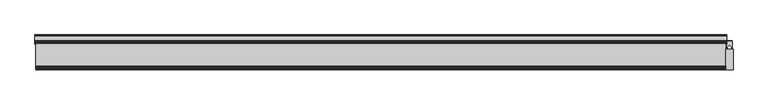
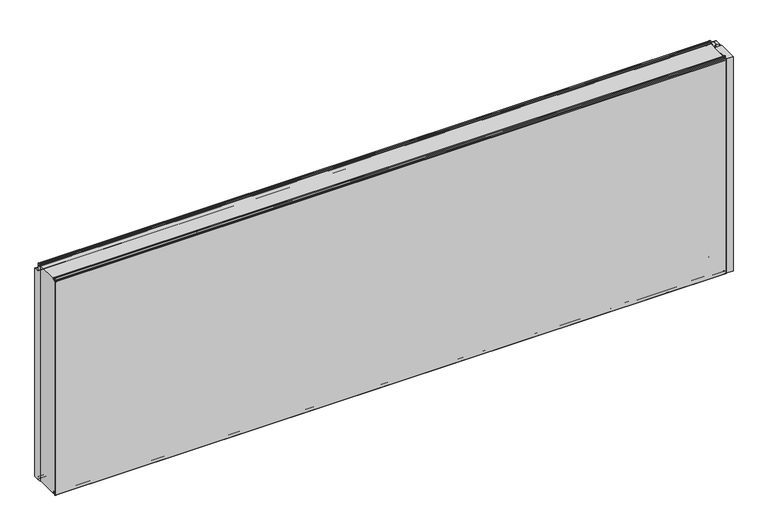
"""IFC4 building model written with IfcOpenShell, lengths in millimetres: plate geometry, Fronttop : Fronttop 150/1000."""

from ifc_helpers import new_model, si_unit, point, frame, frame_2d, origin, origin_with_axes, place, context, project, spatial, polyline, circle_curve, trimmed, segment, composite_curve, outline, extrude, source, transform, mapped, element, save
from ifc_brep_helpers import plane_surface, cylinder_surface, revolved_surface, advanced_brep


def plate_2dd25033(model_context):
    return source(origin(), model_context, "Body", "SolidModel", [
        advanced_brep(
        [(-1481.5, 124.0, 1008.0), (-1481.5, 121.0, 1008.0), (-1481.5, 121.0, 1004.0), (-1481.5, 117.0, 1000.0), (-1481.5, 115.0, 1000.0), (-1481.5, 115.0, 1001.0), (-1481.5, 117.0, 1001.0), (-1481.5, 120.0, 1004.0), (-1481.5, 120.0, 1008.0), (-1481.5, 125.0, 1008.0), (-1481.5, 125.0, 1000.0), (-1481.5, 124.0, 1000.0), (1481.5, 125.0, 1008.0), (1481.5, 120.0, 1008.0), (1481.5, 120.0, 1004.0), (1481.5, 117.0, 1001.0), (1481.5, 115.0, 1001.0), (1481.5, 115.0, 1000.0), (1481.5, 117.0, 1000.0), (1481.5, 121.0, 1004.0), (1481.5, 121.0, 1008.0), (1481.5, 124.0, 1008.0), (1481.5, 124.0, 1000.0), (1481.5, 125.0, 1000.0), (-1481.5, 117.0, 2.0), (1481.5, 117.0, 2.0), (1481.5, 115.0, 2.0), (-1481.5, 115.0, 2.0), (-1481.5, 119.0, 4.0), (1481.5, 119.0, 4.0), (-1481.5, 119.0, 8.0), (1481.5, 119.0, 8.0), (-1481.5, 126.0, 8.0), (1481.5, 126.0, 8.0), (-1481.5, 126.0, 0.0), (1481.5, 126.0, 0.0), (-1481.5, 129.0, -3.0), (1481.5, 129.0, -3.0), (-1481.5, 125.0, -3.0), (-1482.5, 125.0, -3.0), (-1482.5, 147.0, -3.0), (-1481.5, 147.0, -3.0), (1481.5, 147.0, -3.0), (1482.5, 147.0, -3.0), (1482.5, 125.0, -3.0), (1481.5, 125.0, -3.0), (-1481.5, 150.0, 0.0), (1481.5, 150.0, 0.0), (-1482.5, 150.0, 0.0), (-1482.5, 150.0, 969.0), (-1481.5, 150.0, 969.0), (1481.5, 150.0, 969.0), (1482.5, 150.0, 969.0), (1482.5, 150.0, 0.0), (-1481.5, 147.0, 972.0), (1481.5, 147.0, 972.0), (-1482.5, 147.0, 972.0), (-1482.5, 128.0, 972.0), (-1481.5, 128.0, 972.0), (1481.5, 128.0, 972.0), (1482.5, 128.0, 972.0), (1482.5, 147.0, 972.0), (-1481.5, 125.0, 975.0), (1481.5, 125.0, 975.0), (-1482.5, 125.0, 975.0), (-1482.5, 125.0, 1000.0), (1482.5, 125.0, 1000.0), (1482.5, 125.0, 975.0), (-1481.5, 124.0, 975.0), (1481.5, 124.0, 975.0), (-1481.5, 128.0, 971.0), (1481.5, 128.0, 971.0), (-1481.5, 147.0, 971.0), (1481.5, 147.0, 971.0), (-1481.5, 149.0, 969.0), (1481.5, 149.0, 969.0), (-1481.5, 149.0, 0.0), (1481.5, 149.0, 0.0), (-1481.5, 147.0, -2.0), (1481.5, 147.0, -2.0), (-1481.5, 129.0, -2.0), (1481.5, 129.0, -2.0), (-1481.5, 127.0, 0.0), (1481.5, 127.0, 0.0), (-1481.5, 127.0, 8.0), (1481.5, 127.0, 8.0), (-1481.5, 118.0, 8.0), (1481.5, 118.0, 8.0), (-1481.5, 118.0, 4.0), (1481.5, 118.0, 4.0), (-1481.5, 117.0, 3.0), (1481.5, 117.0, 3.0), (-1481.5, 115.0, 3.0), (1481.5, 115.0, 3.0), (1482.5, 110.0, 1000.0), (1482.5, 110.0, 0.0), (1482.5, 125.0, 0.0), (1481.5, 125.0, 0.0), (1481.5, 110.0, 0.0), (1481.5, 110.0, 1000.0), (-1482.5, 125.0, 0.0), (-1482.5, 110.0, 0.0), (-1482.5, 110.0, 1000.0), (-1481.5, 110.0, 1000.0), (-1481.5, 110.0, 0.0), (-1481.5, 125.0, 0.0)],
        [
            (0, 1, circle_curve(frame((-1481.5, 122.5, 1008.0), z_axis=(1.0, 0.0, 0.0), x_axis=(0.0, -1.0, 0.0)), 1.5)),
            (1, 2),
            (2, 3, circle_curve(frame((-1481.5, 117.0, 1004.0), z_axis=(-1.0, 0.0, 0.0), x_axis=(0.0, -1.0, 0.0)), 4.0)),
            (3, 4),
            (4, 5),
            (5, 6),
            (6, 7, circle_curve(frame((-1481.5, 117.0, 1004.0), z_axis=(1.0, 0.0, 0.0), x_axis=(0.0, -1.0, 0.0)), 3.0)),
            (7, 8),
            (8, 9, circle_curve(frame((-1481.5, 122.5, 1008.0), z_axis=(-1.0, 0.0, 0.0), x_axis=(0.0, -1.0, 0.0)), 2.5)),
            (9, 10),
            (10, 11),
            (11, 0),
            (12, 13, circle_curve(frame((1481.5, 122.5, 1008.0), z_axis=(1.0, 0.0, 0.0), x_axis=(0.0, -1.0, 0.0)), 2.5)),
            (13, 14),
            (14, 15, circle_curve(frame((1481.5, 117.0, 1004.0), z_axis=(-1.0, 0.0, 0.0), x_axis=(0.0, -1.0, 0.0)), 3.0)),
            (15, 16),
            (16, 17),
            (17, 18),
            (18, 19, circle_curve(frame((1481.5, 117.0, 1004.0), z_axis=(1.0, 0.0, 0.0), x_axis=(0.0, -1.0, 0.0)), 4.0)),
            (19, 20),
            (20, 21, circle_curve(frame((1481.5, 122.5, 1008.0), z_axis=(-1.0, 0.0, 0.0), x_axis=(0.0, -1.0, 0.0)), 1.5)),
            (21, 22),
            (22, 23),
            (23, 12),
            (24, 25),
            (25, 26),
            (26, 27),
            (27, 24),
            (24, 28, circle_curve(frame((-1481.5, 117.0, 4.0), z_axis=(1.0, 0.0, 0.0), x_axis=(0.0, -1.0, 0.0)), 2.0)),
            (28, 29),
            (29, 25, circle_curve(frame((1481.5, 117.0, 4.0), z_axis=(-1.0, 0.0, 0.0), x_axis=(0.0, -1.0, 0.0)), 2.0)),
            (28, 30),
            (30, 31),
            (31, 29),
            (30, 32, circle_curve(frame((-1481.5, 122.5, 8.0), z_axis=(-1.0, 0.0, 0.0), x_axis=(0.0, -1.0, 0.0)), 3.5)),
            (32, 33),
            (33, 31, circle_curve(frame((1481.5, 122.5, 8.0), z_axis=(1.0, 0.0, 0.0), x_axis=(0.0, -1.0, 0.0)), 3.5)),
            (32, 34),
            (34, 35),
            (35, 33),
            (34, 36, circle_curve(frame((-1481.5, 129.0, 0.0), z_axis=(1.0, 0.0, 0.0), x_axis=(0.0, -1.0, 0.0)), 3.0)),
            (36, 37),
            (37, 35, circle_curve(frame((1481.5, 129.0, 0.0), z_axis=(-1.0, 0.0, 0.0), x_axis=(0.0, -1.0, 0.0)), 3.0)),
            (36, 38),
            (38, 39),
            (39, 40),
            (40, 41),
            (41, 42),
            (42, 43),
            (43, 44),
            (44, 45),
            (45, 37),
            (41, 46, circle_curve(frame((-1481.5, 147.0, 0.0), z_axis=(1.0, 0.0, 0.0), x_axis=(0.0, -1.0, 0.0)), 3.0)),
            (46, 47),
            (47, 42, circle_curve(frame((1481.5, 147.0, 0.0), z_axis=(-1.0, 0.0, 0.0), x_axis=(0.0, -1.0, 0.0)), 3.0)),
            (46, 48),
            (48, 49),
            (49, 50),
            (50, 51),
            (51, 52),
            (52, 53),
            (53, 47),
            (50, 54, circle_curve(frame((-1481.5, 147.0, 969.0), z_axis=(1.0, 0.0, 0.0), x_axis=(0.0, -1.0, 0.0)), 3.0)),
            (54, 55),
            (55, 51, circle_curve(frame((1481.5, 147.0, 969.0), z_axis=(-1.0, 0.0, 0.0), x_axis=(0.0, -1.0, 0.0)), 3.0)),
            (54, 56),
            (56, 57),
            (57, 58),
            (58, 59),
            (59, 60),
            (60, 61),
            (61, 55),
            (58, 62, circle_curve(frame((-1481.5, 128.0, 975.0), z_axis=(-1.0, 0.0, 0.0), x_axis=(0.0, -1.0, 0.0)), 3.0)),
            (62, 63),
            (63, 59, circle_curve(frame((1481.5, 128.0, 975.0), z_axis=(1.0, 0.0, 0.0), x_axis=(0.0, -1.0, 0.0)), 3.0)),
            (62, 64),
            (64, 65),
            (65, 10),
            (9, 12),
            (23, 66),
            (66, 67),
            (67, 63),
            (8, 13),
            (7, 14),
            (6, 15),
            (5, 16),
            (4, 17),
            (4, 3),
            (3, 18),
            (18, 17),
            (2, 19),
            (1, 20),
            (0, 21),
            (11, 68),
            (68, 69),
            (69, 22),
            (68, 70, circle_curve(frame((-1481.5, 128.0, 975.0), z_axis=(1.0, 0.0, 0.0), x_axis=(0.0, -1.0, 0.0)), 4.0)),
            (70, 71),
            (71, 69, circle_curve(frame((1481.5, 128.0, 975.0), z_axis=(-1.0, 0.0, 0.0), x_axis=(0.0, -1.0, 0.0)), 4.0)),
            (70, 72),
            (72, 73),
            (73, 71),
            (72, 74, circle_curve(frame((-1481.5, 147.0, 969.0), z_axis=(-1.0, 0.0, 0.0), x_axis=(0.0, -1.0, 0.0)), 2.0)),
            (74, 75),
            (75, 73, circle_curve(frame((1481.5, 147.0, 969.0), z_axis=(1.0, 0.0, 0.0), x_axis=(0.0, -1.0, 0.0)), 2.0)),
            (74, 76),
            (76, 77),
            (77, 75),
            (76, 78, circle_curve(frame((-1481.5, 147.0, 0.0), z_axis=(-1.0, 0.0, 0.0), x_axis=(0.0, -1.0, 0.0)), 2.0)),
            (78, 79),
            (79, 77, circle_curve(frame((1481.5, 147.0, 0.0), z_axis=(1.0, 0.0, 0.0), x_axis=(0.0, -1.0, 0.0)), 2.0)),
            (78, 80),
            (80, 81),
            (81, 79),
            (80, 82, circle_curve(frame((-1481.5, 129.0, 0.0), z_axis=(-1.0, 0.0, 0.0), x_axis=(0.0, -1.0, 0.0)), 2.0)),
            (82, 83),
            (83, 81, circle_curve(frame((1481.5, 129.0, 0.0), z_axis=(1.0, 0.0, 0.0), x_axis=(0.0, -1.0, 0.0)), 2.0)),
            (82, 84),
            (84, 85),
            (85, 83),
            (84, 86, circle_curve(frame((-1481.5, 122.5, 8.0), z_axis=(1.0, 0.0, 0.0), x_axis=(0.0, -1.0, 0.0)), 4.5)),
            (86, 87),
            (87, 85, circle_curve(frame((1481.5, 122.5, 8.0), z_axis=(-1.0, 0.0, 0.0), x_axis=(0.0, -1.0, 0.0)), 4.5)),
            (86, 88),
            (88, 89),
            (89, 87),
            (88, 90, circle_curve(frame((-1481.5, 117.0, 4.0), z_axis=(-1.0, 0.0, 0.0), x_axis=(0.0, -1.0, 0.0)), 1.0)),
            (90, 91),
            (91, 89, circle_curve(frame((1481.5, 117.0, 4.0), z_axis=(1.0, 0.0, 0.0), x_axis=(0.0, -1.0, 0.0)), 1.0)),
            (90, 92),
            (92, 93),
            (93, 91),
            (26, 93),
            (92, 27),
            (66, 94),
            (94, 95),
            (95, 96),
            (96, 44),
            (43, 53, circle_curve(frame((1482.5, 147.0, 0.0), z_axis=(1.0, 0.0, 0.0), x_axis=(0.0, 1.0, 0.0)), 3.0)),
            (52, 61, circle_curve(frame((1482.5, 147.0, 969.0), z_axis=(1.0, 0.0, 0.0), x_axis=(0.0, 1.0, 0.0)), 3.0)),
            (60, 67, circle_curve(frame((1482.5, 128.0, 975.0), z_axis=(-1.0, 0.0, 0.0), x_axis=(0.0, 1.0, 0.0)), 3.0)),
            (45, 97),
            (97, 98),
            (98, 99),
            (99, 17),
            (18, 22),
            (99, 94),
            (98, 95),
            (97, 96),
            (64, 57, circle_curve(frame((-1482.5, 128.0, 975.0), z_axis=(1.0, 0.0, 0.0), x_axis=(0.0, 1.0, 0.0)), 3.0)),
            (56, 49, circle_curve(frame((-1482.5, 147.0, 969.0), z_axis=(-1.0, 0.0, 0.0), x_axis=(0.0, 1.0, 0.0)), 3.0)),
            (48, 40, circle_curve(frame((-1482.5, 147.0, 0.0), z_axis=(-1.0, 0.0, 0.0), x_axis=(0.0, 1.0, 0.0)), 3.0)),
            (39, 100),
            (100, 101),
            (101, 102),
            (102, 65),
            (103, 104),
            (104, 105),
            (105, 38),
            (11, 3),
            (4, 103),
            (102, 103),
            (101, 104),
            (100, 105),
        ],
        [
            plane_surface(frame((-1481.5, 0.0, 0.0), z_axis=(-1.0, 0.0, 0.0), x_axis=(0.0, 0.0, 1.0))),
            plane_surface(frame((1481.5, 0.0, 0.0), z_axis=(1.0, 0.0, 0.0), x_axis=(0.0, 0.0, 1.0))),
            plane_surface(frame((-1481.5, 117.0, 2.0), z_axis=(0.0, 0.0, -1.0), x_axis=(1.0, 0.0, 0.0))),
            cylinder_surface(frame((-1481.5, 117.0, 4.0), z_axis=(-1.0, 0.0, 0.0), x_axis=(0.0, -1.0, 0.0)), 2.0),
            plane_surface(frame((-1481.5, 119.0, 8.0), z_axis=(0.0, 1.0, 0.0), x_axis=(1.0, 0.0, 0.0))),
            revolved_surface(polyline([(1481.5, 119.0, 8.0), (-1481.5, 119.0, 8.0)]), (-1481.5, 122.5, 8.0), (1.0, 0.0, 0.0)),
            plane_surface(frame((-1481.5, 126.0, 0.0), z_axis=(0.0, -1.0, 0.0), x_axis=(1.0, 0.0, 0.0))),
            cylinder_surface(frame((-1481.5, 129.0, 0.0), z_axis=(-1.0, 0.0, 0.0), x_axis=(0.0, -1.0, 0.0)), 3.0),
            plane_surface(frame((-1481.5, 147.0, -3.0), z_axis=(0.0, 0.0, -1.0), x_axis=(1.0, 0.0, 0.0))),
            cylinder_surface(frame((-1481.5, 147.0, 0.0), z_axis=(-1.0, 0.0, 0.0), x_axis=(0.0, -1.0, 0.0)), 3.0),
            plane_surface(frame((-1481.5, 150.0, 969.0), z_axis=(0.0, 1.0, 0.0), x_axis=(1.0, 0.0, 0.0))),
            cylinder_surface(frame((-1481.5, 147.0, 969.0), z_axis=(-1.0, 0.0, 0.0), x_axis=(0.0, -1.0, 0.0)), 3.0),
            plane_surface(frame((-1481.5, 128.0, 972.0), z_axis=(0.0, 0.0, 1.0), x_axis=(1.0, 0.0, 0.0))),
            revolved_surface(polyline([(1481.5, 125.0, 975.0), (-1481.5, 125.0, 975.0)]), (-1481.5, 128.0, 975.0), (1.0, 0.0, 0.0)),
            plane_surface(frame((-1481.5, 125.0, 1008.0), z_axis=(0.0, 1.0, 0.0), x_axis=(1.0, 0.0, 0.0))),
            cylinder_surface(frame((-1481.5, 122.5, 1008.0), z_axis=(-1.0, 0.0, 0.0), x_axis=(0.0, -1.0, 0.0)), 2.5),
            plane_surface(frame((-1481.5, 120.0, 1004.0), z_axis=(0.0, -1.0, 0.0), x_axis=(1.0, 0.0, 0.0))),
            revolved_surface(polyline([(1481.5, 114.0, 1004.0), (-1481.5, 114.0, 1004.0)]), (-1481.5, 117.0, 1004.0), (1.0, 0.0, 0.0)),
            plane_surface(frame((-1481.5, 115.0, 1001.0), z_axis=(0.0, 0.0, 1.0), x_axis=(1.0, 0.0, 0.0))),
            plane_surface(frame((-1481.5, 115.0, 1000.0), z_axis=(0.0, -1.0, 0.0), x_axis=(1.0, 0.0, 0.0))),
            plane_surface(frame((-1481.5, 117.0, 1000.0), z_axis=(0.0, 0.0, -1.0), x_axis=(1.0, 0.0, 0.0))),
            cylinder_surface(frame((-1481.5, 117.0, 1004.0), z_axis=(-1.0, 0.0, 0.0), x_axis=(0.0, -1.0, 0.0)), 4.0),
            plane_surface(frame((-1481.5, 121.0, 1008.0), z_axis=(0.0, 1.0, 0.0), x_axis=(1.0, 0.0, 0.0))),
            revolved_surface(polyline([(1481.5, 121.0, 1008.0), (-1481.5, 121.0, 1008.0)]), (-1481.5, 122.5, 1008.0), (1.0, 0.0, 0.0)),
            plane_surface(frame((-1481.5, 124.0, 975.0), z_axis=(0.0, -1.0, 0.0), x_axis=(1.0, 0.0, 0.0))),
            cylinder_surface(frame((-1481.5, 128.0, 975.0), z_axis=(-1.0, 0.0, 0.0), x_axis=(0.0, -1.0, 0.0)), 4.0),
            plane_surface(frame((-1481.5, 147.0, 971.0), z_axis=(0.0, 0.0, -1.0), x_axis=(1.0, 0.0, 0.0))),
            revolved_surface(polyline([(1481.5, 145.0, 969.0), (-1481.5, 145.0, 969.0)]), (-1481.5, 147.0, 969.0), (1.0, 0.0, 0.0)),
            plane_surface(frame((-1481.5, 149.0, 0.0), z_axis=(0.0, -1.0, 0.0), x_axis=(1.0, 0.0, 0.0))),
            revolved_surface(polyline([(1481.5, 145.0, 0.0), (-1481.5, 145.0, 0.0)]), (-1481.5, 147.0, 0.0), (1.0, 0.0, 0.0)),
            plane_surface(frame((-1481.5, 129.0, -2.0), z_axis=(0.0, 0.0, 1.0), x_axis=(1.0, 0.0, 0.0))),
            revolved_surface(polyline([(1481.5, 127.0, 0.0), (-1481.5, 127.0, 0.0)]), (-1481.5, 129.0, 0.0), (1.0, 0.0, 0.0)),
            plane_surface(frame((-1481.5, 127.0, 8.0), z_axis=(0.0, 1.0, 0.0), x_axis=(1.0, 0.0, 0.0))),
            cylinder_surface(frame((-1481.5, 122.5, 8.0), z_axis=(-1.0, 0.0, 0.0), x_axis=(0.0, -1.0, 0.0)), 4.5),
            plane_surface(frame((-1481.5, 118.0, 4.0), z_axis=(0.0, -1.0, 0.0), x_axis=(1.0, 0.0, 0.0))),
            revolved_surface(polyline([(1481.5, 116.0, 4.0), (-1481.5, 116.0, 4.0)]), (-1481.5, 117.0, 4.0), (1.0, 0.0, 0.0)),
            plane_surface(frame((-1481.5, 115.0, 3.0), z_axis=(0.0, 0.0, 1.0), x_axis=(1.0, 0.0, 0.0))),
            plane_surface(frame((-1481.5, 115.0, 2.0), z_axis=(0.0, -1.0, 0.0), x_axis=(1.0, 0.0, 0.0))),
            plane_surface(frame((1482.5, 125.0, 1000.0), z_axis=(1.0, 0.0, 0.0), x_axis=(0.0, -1.0, 0.0))),
            plane_surface(frame((1481.5, 125.0, 1000.0), z_axis=(-1.0, 0.0, 0.0), x_axis=(0.0, 1.0, 0.0))),
            plane_surface(frame((1482.5, 125.0, 1000.0), z_axis=(0.0, 0.0, 1.0), x_axis=(-1.0, 0.0, 0.0))),
            plane_surface(frame((1482.5, 110.0, 1000.0), z_axis=(0.0, -1.0, 0.0), x_axis=(-1.0, 0.0, 0.0))),
            plane_surface(frame((1482.5, 110.0, 0.0), z_axis=(0.0, 0.0, -1.0), x_axis=(-1.0, 0.0, 0.0))),
            cylinder_surface(frame((1481.5, 147.0, 0.0), z_axis=(1.0, 0.0, 0.0), x_axis=(0.0, 1.0, 0.0)), 3.0),
            cylinder_surface(frame((1481.5, 147.0, 969.0), z_axis=(1.0, 0.0, 0.0), x_axis=(0.0, 1.0, 0.0)), 3.0),
            revolved_surface(polyline([(1481.5, 131.0, 975.0), (1482.5, 131.0, 975.0)]), (1481.5, 128.0, 975.0), (-1.0, 0.0, 0.0)),
            plane_surface(frame((-1482.5, 125.0, 1000.0), z_axis=(-1.0, 0.0, 0.0), x_axis=(0.0, 1.0, 0.0))),
            plane_surface(frame((-1481.5, 125.0, 1000.0), z_axis=(1.0, 0.0, 0.0), x_axis=(0.0, -1.0, 0.0))),
            plane_surface(frame((-1481.5, 125.0, 1000.0), z_axis=(0.0, 0.0, 1.0), x_axis=(-1.0, 0.0, 0.0))),
            plane_surface(frame((-1481.5, 110.0, 1000.0), z_axis=(0.0, -1.0, 0.0), x_axis=(-1.0, 0.0, 0.0))),
            plane_surface(frame((-1481.5, 110.0, 0.0), z_axis=(0.0, 0.0, -1.0), x_axis=(-1.0, 0.0, 0.0))),
            cylinder_surface(frame((-1482.5, 147.0, 0.0), z_axis=(1.0, 0.0, 0.0), x_axis=(0.0, 1.0, 0.0)), 3.0),
            cylinder_surface(frame((-1482.5, 147.0, 969.0), z_axis=(1.0, 0.0, 0.0), x_axis=(0.0, 1.0, 0.0)), 3.0),
            revolved_surface(polyline([(-1482.5, 131.0, 975.0), (-1481.5, 131.0, 975.0)]), (-1482.5, 128.0, 975.0), (-1.0, 0.0, 0.0)),
            plane_surface(frame((1482.5, 125.0, 0.0), z_axis=(0.0, -1.0, 0.0), x_axis=(-1.0, 0.0, 0.0))),
            plane_surface(frame((-1481.5, 125.0, 0.0), z_axis=(0.0, -1.0, 0.0), x_axis=(-1.0, 0.0, 0.0))),
        ],
        [
            (0, [[1, 2, 3, 4, 5, 6, 7, 8, 9, 10, 11, 12]]),
            (1, [[13, 14, 15, 16, 17, 18, 19, 20, 21, 22, 23, 24]]),
            (2, [[25, 26, 27, 28]]),
            (3, [[-25, 29, 30, 31]]),
            (4, [[-30, 32, 33, 34]]),
            (5, [[-33, 35, 36, 37]]),
            (6, [[-36, 38, 39, 40]]),
            (7, [[-39, 41, 42, 43]]),
            (8, [[-42, 44, 45, 46, 47, 48, 49, 50, 51, 52]]),
            (9, [[-48, 53, 54, 55]]),
            (10, [[-54, 56, 57, 58, 59, 60, 61, 62]]),
            (11, [[-59, 63, 64, 65]]),
            (12, [[-64, 66, 67, 68, 69, 70, 71, 72]]),
            (13, [[-69, 73, 74, 75]]),
            (14, [[-74, 76, 77, 78, -10, 79, -24, 80, 81, 82]]),
            (15, [[-9, 83, -13, -79]]),
            (16, [[-8, 84, -14, -83]]),
            (17, [[-7, 85, -15, -84]]),
            (18, [[-6, 86, -16, -85]]),
            (19, [[-5, 87, -17, -86]]),
            (20, [[-87, 88, 89, 90]]),
            (21, [[-3, 91, -19, -89]]),
            (22, [[-2, 92, -20, -91]]),
            (23, [[-1, 93, -21, -92]]),
            (24, [[-93, -12, 94, 95, 96, -22]]),
            (25, [[-95, 97, 98, 99]]),
            (26, [[-98, 100, 101, 102]]),
            (27, [[-101, 103, 104, 105]]),
            (28, [[-104, 106, 107, 108]]),
            (29, [[-107, 109, 110, 111]]),
            (30, [[-110, 112, 113, 114]]),
            (31, [[-113, 115, 116, 117]]),
            (32, [[-116, 118, 119, 120]]),
            (33, [[-119, 121, 122, 123]]),
            (34, [[-122, 124, 125, 126]]),
            (35, [[-125, 127, 128, 129]]),
            (36, [[-128, 130, 131, 132]]),
            (37, [[-27, 133, -131, 134]]),
            (38, [[135, 136, 137, 138, -50, 139, -61, 140, -71, 141, -81]]),
            (39, [[142, 143, 144, 145, -90, 146, -96, -99, -102, -105, -108, -111, -114, -117, -120, -123, -126, -129, -132, -133, -26, -31, -34, -37, -40, -43, -52]]),
            (40, [[-135, -80, -23, -146, -18, -145, 147]]),
            (41, [[-136, -147, -144, 148]]),
            (42, [[-137, -148, -143, 149]]),
            (43, [[-139, -49, -55, -62]]),
            (44, [[-140, -60, -65, -72]]),
            (45, [[-141, -70, -75, -82]]),
            (46, [[-77, 150, -67, 151, -57, 152, -46, 153, 154, 155, 156]]),
            (47, [[157, 158, 159, -44, -41, -38, -35, -32, -29, -28, -134, -130, -127, -124, -121, -118, -115, -112, -109, -106, -103, -100, -97, -94, 160, -88, 161]]),
            (48, [[-156, 162, -161, -4, -160, -11, -78]]),
            (49, [[-155, 163, -157, -162]]),
            (50, [[-154, 164, -158, -163]]),
            (51, [[-152, -56, -53, -47]]),
            (52, [[-151, -66, -63, -58]]),
            (53, [[-150, -76, -73, -68]]),
            (54, [[-138, -149, -142, -51]]),
            (55, [[-153, -45, -159, -164]]),
        ],
    ),
        extrude(outline(composite_curve([segment(polyline([(1482.4998455, 123.5), (1494.25, 123.5), (1494.25, 107.5), (1495.75, 107.5), (1495.75, 123.5), (1507.5001545, 123.5), (1507.5001545, 90.0), (1504.75, 90.0), (1504.75, 92.5)]), True, "CONTINUOUS"), segment(trimmed(circle_curve(frame_2d((1486.9661979, 89.3183984)), 18.0661619), [point((1504.75, 92.5))], [point((1495.0, 105.5))], True, "CARTESIAN"), True, "CONTINUOUS"), segment(trimmed(circle_curve(frame_2d((1503.0338021, 89.3183984)), 18.0661619), [point((1495.0, 105.5))], [point((1485.25, 92.5))], True, "CARTESIAN"), True, "CONTINUOUS"), segment(polyline([(1485.25, 92.5), (1485.25, 90.0), (1482.4998455, 90.0), (1482.4998455, 123.5)]), True, "CONTINUOUS")], self_intersect=False)), origin_with_axes(), (0.0, 0.0, 1.0), 1000.0),
        extrude(outline(polyline([(1510.5, 0.0), (1479.5, 0.0), (1479.5, 88.0), (1510.5, 88.0), (1510.5, 0.0)])), origin_with_axes(), (0.0, 0.0, 1.0), 1000.0),
        extrude(outline(polyline([(1483.4948846, 125.0), (1506.5051154, 125.0), (1506.5051154, 123.5), (1495.6502496, 123.5), (1495.6502496, 109.0759655), (1494.35, 109.0759655), (1494.35, 123.5), (1483.4948846, 123.5), (1483.4948846, 125.0)])), origin_with_axes(), (0.0, 0.0, 1.0), 1000.0),
        advanced_brep(
        [(-1479.5, 13.0, 1001.0), (-1479.5, 15.0, 1001.0), (-1479.5, 15.0, 1000.0), (-1479.5, 13.0, 1000.0), (-1479.5, 9.0, 1004.0), (-1479.5, 9.0, 1008.0), (-1479.5, 6.0, 1008.0), (-1479.5, 6.0, 999.5), (-1479.5, 2.1134897, 996.0214069), (-1479.5, 1.0, 995.0), (-1479.5, 1.0, -0.5), (-1479.5, 3.0, -0.5), (-1479.5, 3.0, 8.0), (-1479.5, 12.0, 8.0), (-1479.5, 12.0, 4.0), (-1479.5, 13.0, 3.0), (-1479.5, 15.0, 3.0), (-1479.5, 15.0, 2.0), (-1479.5, 13.0, 2.0), (-1479.5, 11.0, 4.0), (-1479.5, 11.0, 8.0), (-1479.5, 4.0, 8.0), (-1479.5, 4.0, -0.5), (-1479.5, 0.0, -0.5), (-1479.5, 0.0, 995.0), (-1479.5, 2.220863, 996.9877675), (-1479.5, 5.0, 999.5), (-1479.5, 5.0, 1008.0), (-1479.5, 10.0, 1008.0), (-1479.5, 10.0, 1004.0), (1479.5, 13.0, 1001.0), (1479.5, 10.0, 1004.0), (1479.5, 10.0, 1008.0), (1479.5, 5.0, 1008.0), (1479.5, 5.0, 999.5), (1479.5, 2.2239212, 997.0152907), (1479.5, 0.0, 995.0), (1479.5, 0.0, -0.5), (1479.5, 4.0, -0.5), (1479.5, 4.0, 8.0), (1479.5, 11.0, 8.0), (1479.5, 11.0, 4.0), (1479.5, 13.0, 2.0), (1479.5, 15.0, 2.0), (1479.5, 15.0, 3.0), (1479.5, 13.0, 3.0), (1479.5, 12.0, 4.0), (1479.5, 12.0, 8.0), (1479.5, 3.0, 8.0), (1479.5, 3.0, -0.5), (1479.5, 1.0, -0.5), (1479.5, 1.0, 995.0), (1479.5, 2.1104315, 995.9938837), (1479.5, 6.0, 999.5), (1479.5, 6.0, 1008.0), (1479.5, 9.0, 1008.0), (1479.5, 9.0, 1004.0), (1479.5, 13.0, 1000.0), (1479.5, 15.0, 1000.0), (1479.5, 15.0, 1001.0)],
        [
            (0, 1),
            (1, 2),
            (2, 3),
            (3, 4, circle_curve(frame((-1479.5, 13.0, 1004.0), z_axis=(-1.0, 0.0, 0.0), x_axis=(0.0, -1.0, 0.0)), 4.0)),
            (4, 5),
            (5, 6, circle_curve(frame((-1479.5, 7.5, 1008.0), z_axis=(1.0, 0.0, 0.0), x_axis=(0.0, -1.0, 0.0)), 1.5)),
            (6, 7),
            (7, 8, circle_curve(frame((-1479.5, 2.5, 999.5), z_axis=(-1.0, 0.0, 0.0), x_axis=(0.0, -1.0, 0.0)), 3.5)),
            (8, 9, circle_curve(frame((-1479.5, 2.0, 995.0), z_axis=(1.0, 0.0, 0.0), x_axis=(0.0, -1.0, 0.0)), 1.0)),
            (9, 10),
            (10, 11, circle_curve(frame((-1479.5, 2.0, -0.5), z_axis=(1.0, 0.0, 0.0), x_axis=(0.0, -1.0, 0.0)), 1.0)),
            (11, 12),
            (12, 13, circle_curve(frame((-1479.5, 7.5, 8.0), z_axis=(-1.0, 0.0, 0.0), x_axis=(0.0, -1.0, 0.0)), 4.5)),
            (13, 14),
            (14, 15, circle_curve(frame((-1479.5, 13.0, 4.0), z_axis=(1.0, 0.0, 0.0), x_axis=(0.0, -1.0, 0.0)), 1.0)),
            (15, 16),
            (16, 17),
            (17, 18),
            (18, 19, circle_curve(frame((-1479.5, 13.0, 4.0), z_axis=(-1.0, 0.0, 0.0), x_axis=(0.0, -1.0, 0.0)), 2.0)),
            (19, 20),
            (20, 21, circle_curve(frame((-1479.5, 7.5, 8.0), z_axis=(1.0, 0.0, 0.0), x_axis=(0.0, -1.0, 0.0)), 3.5)),
            (21, 22),
            (22, 23, circle_curve(frame((-1479.5, 2.0, -0.5), z_axis=(-1.0, 0.0, 0.0), x_axis=(0.0, -1.0, 0.0)), 2.0)),
            (23, 24),
            (24, 25, circle_curve(frame((-1479.5, 2.0, 995.0), z_axis=(-1.0, 0.0, 0.0), x_axis=(0.0, -1.0, 0.0)), 2.0)),
            (25, 26, circle_curve(frame((-1479.5, 2.5, 999.5), z_axis=(1.0, 0.0, 0.0), x_axis=(0.0, -1.0, 0.0)), 2.5)),
            (26, 27),
            (27, 28, circle_curve(frame((-1479.5, 7.5, 1008.0), z_axis=(-1.0, 0.0, 0.0), x_axis=(0.0, -1.0, 0.0)), 2.5)),
            (28, 29),
            (29, 0, circle_curve(frame((-1479.5, 13.0, 1004.0), z_axis=(1.0, 0.0, 0.0), x_axis=(0.0, -1.0, 0.0)), 3.0)),
            (30, 31, circle_curve(frame((1479.5, 13.0, 1004.0), z_axis=(-1.0, 0.0, 0.0), x_axis=(0.0, -1.0, 0.0)), 3.0)),
            (31, 32),
            (32, 33, circle_curve(frame((1479.5, 7.5, 1008.0), z_axis=(1.0, 0.0, 0.0), x_axis=(0.0, -1.0, 0.0)), 2.5)),
            (33, 34),
            (34, 35, circle_curve(frame((1479.5, 2.5, 999.5), z_axis=(-1.0, 0.0, 0.0), x_axis=(0.0, -1.0, 0.0)), 2.5)),
            (35, 36, circle_curve(frame((1479.5, 2.0, 995.0), z_axis=(1.0, 0.0, 0.0), x_axis=(0.0, -1.0, 0.0)), 2.0)),
            (36, 37),
            (37, 38, circle_curve(frame((1479.5, 2.0, -0.5), z_axis=(1.0, 0.0, 0.0), x_axis=(0.0, -1.0, 0.0)), 2.0)),
            (38, 39),
            (39, 40, circle_curve(frame((1479.5, 7.5, 8.0), z_axis=(-1.0, 0.0, 0.0), x_axis=(0.0, -1.0, 0.0)), 3.5)),
            (40, 41),
            (41, 42, circle_curve(frame((1479.5, 13.0, 4.0), z_axis=(1.0, 0.0, 0.0), x_axis=(0.0, -1.0, 0.0)), 2.0)),
            (42, 43),
            (43, 44),
            (44, 45),
            (45, 46, circle_curve(frame((1479.5, 13.0, 4.0), z_axis=(-1.0, 0.0, 0.0), x_axis=(0.0, -1.0, 0.0)), 1.0)),
            (46, 47),
            (47, 48, circle_curve(frame((1479.5, 7.5, 8.0), z_axis=(1.0, 0.0, 0.0), x_axis=(0.0, -1.0, 0.0)), 4.5)),
            (48, 49),
            (49, 50, circle_curve(frame((1479.5, 2.0, -0.5), z_axis=(-1.0, 0.0, 0.0), x_axis=(0.0, -1.0, 0.0)), 1.0)),
            (50, 51),
            (51, 52, circle_curve(frame((1479.5, 2.0, 995.0), z_axis=(-1.0, 0.0, 0.0), x_axis=(0.0, -1.0, 0.0)), 1.0)),
            (52, 53, circle_curve(frame((1479.5, 2.5, 999.5), z_axis=(1.0, 0.0, 0.0), x_axis=(0.0, -1.0, 0.0)), 3.5)),
            (53, 54),
            (54, 55, circle_curve(frame((1479.5, 7.5, 1008.0), z_axis=(-1.0, 0.0, 0.0), x_axis=(0.0, -1.0, 0.0)), 1.5)),
            (55, 56),
            (56, 57, circle_curve(frame((1479.5, 13.0, 1004.0), z_axis=(1.0, 0.0, 0.0), x_axis=(0.0, -1.0, 0.0)), 4.0)),
            (57, 58),
            (58, 59),
            (59, 30),
            (0, 30),
            (59, 1),
            (58, 2),
            (57, 3),
            (56, 4),
            (55, 5),
            (54, 6),
            (53, 7),
            (52, 8),
            (51, 9),
            (50, 10),
            (49, 11),
            (48, 12),
            (47, 13),
            (46, 14),
            (45, 15),
            (44, 16),
            (43, 17),
            (42, 18),
            (41, 19),
            (40, 20),
            (39, 21),
            (38, 22),
            (37, 23),
            (36, 24),
            (35, 25),
            (34, 26),
            (33, 27),
            (32, 28),
            (31, 29),
        ],
        [
            plane_surface(frame((-1479.5, 0.0, 0.0), z_axis=(-1.0, 0.0, 0.0), x_axis=(0.0, 0.0, 1.0))),
            plane_surface(frame((1479.5, 0.0, 0.0), z_axis=(1.0, 0.0, 0.0), x_axis=(0.0, 0.0, 1.0))),
            plane_surface(frame((-1479.5, 13.0, 1001.0), z_axis=(0.0, 0.0, 1.0), x_axis=(1.0, 0.0, 0.0))),
            plane_surface(frame((-1479.5, 15.0, 1001.0), z_axis=(0.0, 1.0, 0.0), x_axis=(1.0, 0.0, 0.0))),
            plane_surface(frame((-1479.5, 15.0, 1000.0), z_axis=(0.0, 0.0, -1.0), x_axis=(1.0, 0.0, 0.0))),
            cylinder_surface(frame((-1479.5, 13.0, 1004.0), z_axis=(-1.0, 0.0, 0.0), x_axis=(0.0, -1.0, 0.0)), 4.0),
            plane_surface(frame((-1479.5, 9.0, 1004.0), z_axis=(0.0, -1.0, 0.0), x_axis=(1.0, 0.0, 0.0))),
            revolved_surface(polyline([(1479.5, 6.0, 1008.0), (-1479.5, 6.0, 1008.0)]), (-1479.5, 7.5, 1008.0), (1.0, 0.0, 0.0)),
            plane_surface(frame((-1479.5, 6.0, 1008.0), z_axis=(0.0, 1.0, 0.0), x_axis=(1.0, 0.0, 0.0))),
            cylinder_surface(frame((-1479.5, 2.5, 999.5), z_axis=(-1.0, 0.0, 0.0), x_axis=(0.0, -1.0, 0.0)), 3.5),
            revolved_surface(polyline([(1479.5, 1.0, 995.0), (-1479.5, 1.0, 995.0)]), (-1479.5, 2.0, 995.0), (1.0, 0.0, 0.0)),
            plane_surface(frame((-1479.5, 1.0, 995.0), z_axis=(0.0, 1.0, 0.0), x_axis=(1.0, 0.0, 0.0))),
            revolved_surface(polyline([(1479.5, 1.0, -0.5), (-1479.5, 1.0, -0.5)]), (-1479.5, 2.0, -0.5), (1.0, 0.0, 0.0)),
            plane_surface(frame((-1479.5, 3.0, -0.5), z_axis=(0.0, -1.0, 0.0), x_axis=(1.0, 0.0, 0.0))),
            cylinder_surface(frame((-1479.5, 7.5, 8.0), z_axis=(-1.0, 0.0, 0.0), x_axis=(0.0, -1.0, 0.0)), 4.5),
            plane_surface(frame((-1479.5, 12.0, 8.0), z_axis=(0.0, 1.0, 0.0), x_axis=(1.0, 0.0, 0.0))),
            revolved_surface(polyline([(1479.5, 12.0, 4.0), (-1479.5, 12.0, 4.0)]), (-1479.5, 13.0, 4.0), (1.0, 0.0, 0.0)),
            plane_surface(frame((-1479.5, 13.0, 3.0), z_axis=(0.0, 0.0, 1.0), x_axis=(1.0, 0.0, 0.0))),
            plane_surface(frame((-1479.5, 15.0, 3.0), z_axis=(0.0, 1.0, 0.0), x_axis=(1.0, 0.0, 0.0))),
            plane_surface(frame((-1479.5, 15.0, 2.0), z_axis=(0.0, 0.0, -1.0), x_axis=(1.0, 0.0, 0.0))),
            cylinder_surface(frame((-1479.5, 13.0, 4.0), z_axis=(-1.0, 0.0, 0.0), x_axis=(0.0, -1.0, 0.0)), 2.0),
            plane_surface(frame((-1479.5, 11.0, 4.0), z_axis=(0.0, -1.0, 0.0), x_axis=(1.0, 0.0, 0.0))),
            revolved_surface(polyline([(1479.5, 4.0, 8.0), (-1479.5, 4.0, 8.0)]), (-1479.5, 7.5, 8.0), (1.0, 0.0, 0.0)),
            plane_surface(frame((-1479.5, 4.0, 8.0), z_axis=(0.0, 1.0, 0.0), x_axis=(1.0, 0.0, 0.0))),
            cylinder_surface(frame((-1479.5, 2.0, -0.5), z_axis=(-1.0, 0.0, 0.0), x_axis=(0.0, -1.0, 0.0)), 2.0),
            plane_surface(frame((-1479.5, 0.0, -0.5), z_axis=(0.0, -1.0, 0.0), x_axis=(1.0, 0.0, 0.0))),
            cylinder_surface(frame((-1479.5, 2.0, 995.0), z_axis=(-1.0, 0.0, 0.0), x_axis=(0.0, -1.0, 0.0)), 2.0),
            revolved_surface(polyline([(1479.5, 0.0, 999.5), (-1479.5, 0.0, 999.5)]), (-1479.5, 2.5, 999.5), (1.0, 0.0, 0.0)),
            plane_surface(frame((-1479.5, 5.0, 999.5), z_axis=(0.0, -1.0, 0.0), x_axis=(1.0, 0.0, 0.0))),
            cylinder_surface(frame((-1479.5, 7.5, 1008.0), z_axis=(-1.0, 0.0, 0.0), x_axis=(0.0, -1.0, 0.0)), 2.5),
            plane_surface(frame((-1479.5, 10.0, 1008.0), z_axis=(0.0, 1.0, 0.0), x_axis=(1.0, 0.0, 0.0))),
            revolved_surface(polyline([(1479.5, 10.0, 1004.0), (-1479.5, 10.0, 1004.0)]), (-1479.5, 13.0, 1004.0), (1.0, 0.0, 0.0)),
        ],
        [
            (0, [[1, 2, 3, 4, 5, 6, 7, 8, 9, 10, 11, 12, 13, 14, 15, 16, 17, 18, 19, 20, 21, 22, 23, 24, 25, 26, 27, 28, 29, 30]]),
            (1, [[31, 32, 33, 34, 35, 36, 37, 38, 39, 40, 41, 42, 43, 44, 45, 46, 47, 48, 49, 50, 51, 52, 53, 54, 55, 56, 57, 58, 59, 60]]),
            (2, [[-1, 61, -60, 62]]),
            (3, [[-2, -62, -59, 63]]),
            (4, [[-3, -63, -58, 64]]),
            (5, [[-4, -64, -57, 65]]),
            (6, [[-5, -65, -56, 66]]),
            (7, [[-6, -66, -55, 67]]),
            (8, [[-7, -67, -54, 68]]),
            (9, [[-8, -68, -53, 69]]),
            (10, [[-9, -69, -52, 70]]),
            (11, [[-10, -70, -51, 71]]),
            (12, [[-11, -71, -50, 72]]),
            (13, [[-12, -72, -49, 73]]),
            (14, [[-13, -73, -48, 74]]),
            (15, [[-14, -74, -47, 75]]),
            (16, [[-15, -75, -46, 76]]),
            (17, [[-16, -76, -45, 77]]),
            (18, [[-17, -77, -44, 78]]),
            (19, [[-18, -78, -43, 79]]),
            (20, [[-19, -79, -42, 80]]),
            (21, [[-20, -80, -41, 81]]),
            (22, [[-21, -81, -40, 82]]),
            (23, [[-22, -82, -39, 83]]),
            (24, [[-23, -83, -38, 84]]),
            (25, [[-24, -84, -37, 85]]),
            (26, [[-25, -85, -36, 86]]),
            (27, [[-26, -86, -35, 87]]),
            (28, [[-27, -87, -34, 88]]),
            (29, [[-28, -88, -33, 89]]),
            (30, [[-29, -89, -32, 90]]),
            (31, [[-30, -90, -31, -61]]),
        ],
    ),
        extrude(outline(composite_curve([segment(polyline([(15.0, 3.0), (13.0, 3.0)]), True, "CONTINUOUS"), segment(trimmed(circle_curve(frame_2d((13.0, 4.0)), 1.0), [point((13.0, 3.0))], [point((12.0, 4.0))], False, "CARTESIAN"), True, "CONTINUOUS"), segment(polyline([(12.0, 4.0), (12.0, 8.0)]), True, "CONTINUOUS"), segment(trimmed(circle_curve(frame_2d((7.5, 8.0)), 4.5), [point((12.0, 8.0))], [point((3.0, 8.0))], True, "CARTESIAN"), True, "CONTINUOUS"), segment(polyline([(3.0, 8.0), (3.0, -0.5)]), True, "CONTINUOUS"), segment(trimmed(circle_curve(frame_2d((2.0, -0.5)), 1.0), [point((3.0, -0.5))], [point((1.0, -0.5))], False, "CARTESIAN"), True, "CONTINUOUS"), segment(polyline([(1.0, -0.5), (1.0, 995.0278643)]), True, "CONTINUOUS"), segment(trimmed(circle_curve(frame_2d((2.0, 995.0278643)), 1.0), [point((1.0, 995.0278643))], [point((2.1111111, 996.0216723))], False, "CARTESIAN"), True, "CONTINUOUS"), segment(trimmed(circle_curve(frame_2d((2.5, 999.5)), 3.5), [point((2.1111111, 996.0216723))], [point((6.0, 999.5))], True, "CARTESIAN"), True, "CONTINUOUS"), segment(polyline([(6.0, 999.5), (6.0, 1008.0)]), True, "CONTINUOUS"), segment(trimmed(circle_curve(frame_2d((7.5, 1008.0)), 1.5), [point((6.0, 1008.0))], [point((9.0, 1008.0))], False, "CARTESIAN"), True, "CONTINUOUS"), segment(polyline([(9.0, 1008.0), (9.0, 1004.0)]), True, "CONTINUOUS"), segment(trimmed(circle_curve(frame_2d((13.0, 1004.0)), 4.0), [point((9.0, 1004.0))], [point((13.0, 1000.0))], True, "CARTESIAN"), True, "CONTINUOUS"), segment(polyline([(13.0, 1000.0), (117.0, 1000.0)]), True, "CONTINUOUS"), segment(trimmed(circle_curve(frame_2d((117.0, 1004.0)), 4.0), [point((117.0, 1000.0))], [point((121.0, 1004.0))], True, "CARTESIAN"), True, "CONTINUOUS"), segment(polyline([(121.0, 1004.0), (121.0, 1008.0)]), True, "CONTINUOUS"), segment(trimmed(circle_curve(frame_2d((122.5, 1008.0)), 1.5), [point((121.0, 1008.0))], [point((124.0, 1008.0))], False, "CARTESIAN"), True, "CONTINUOUS"), segment(polyline([(124.0, 1008.0), (124.0, 975.0)]), True, "CONTINUOUS"), segment(trimmed(circle_curve(frame_2d((128.0, 975.0)), 4.0), [point((124.0, 975.0))], [point((128.0, 971.0))], True, "CARTESIAN"), True, "CONTINUOUS"), segment(polyline([(128.0, 971.0), (147.0, 971.0)]), True, "CONTINUOUS"), segment(trimmed(circle_curve(frame_2d((147.0, 969.0)), 2.0), [point((147.0, 971.0))], [point((149.0, 969.0))], False, "CARTESIAN"), True, "CONTINUOUS"), segment(polyline([(149.0, 969.0), (149.0, 0.0)]), True, "CONTINUOUS"), segment(trimmed(circle_curve(frame_2d((147.0, 0.0)), 2.0), [point((149.0, 0.0))], [point((147.0, -2.0))], False, "CARTESIAN"), True, "CONTINUOUS"), segment(polyline([(147.0, -2.0), (129.0, -2.0)]), True, "CONTINUOUS"), segment(trimmed(circle_curve(frame_2d((129.0, 0.0)), 2.0), [point((129.0, -2.0))], [point((127.0, 0.0))], False, "CARTESIAN"), True, "CONTINUOUS"), segment(polyline([(127.0, 0.0), (127.0, 8.0)]), True, "CONTINUOUS"), segment(trimmed(circle_curve(frame_2d((122.5, 8.0)), 4.5), [point((127.0, 8.0))], [point((118.0, 8.0))], True, "CARTESIAN"), True, "CONTINUOUS"), segment(polyline([(118.0, 8.0), (118.0, 4.0)]), True, "CONTINUOUS"), segment(trimmed(circle_curve(frame_2d((117.0, 4.0)), 1.0), [point((118.0, 4.0))], [point((117.0, 3.0))], False, "CARTESIAN"), True, "CONTINUOUS"), segment(polyline([(117.0, 3.0), (115.0, 3.0), (115.0, 0.0), (15.0, 0.0), (15.0, 3.0)]), True, "CONTINUOUS")], self_intersect=False)), frame((-1479.5, 0.0, 0.0), z_axis=(1.0, 0.0, 0.0), x_axis=(0.0, 1.0, 0.0)), (0.0, 0.0, 1.0), 2959.0),
    ])


if __name__ == "__main__":
    model = new_model("IFC4")
    model_context = context("Model", 3, world=origin())
    ifc_project = project(units=[si_unit("LENGTHUNIT", "METRE", prefix="MILLI")], contexts=[model_context])
    site = spatial("IfcSite", under=ifc_project)
    building = spatial("IfcBuilding", under=site)
    placement = place(None, origin())
    plate_shape = plate_2dd25033(model_context)
    element("IfcPlate", 1, ObjectType="Fronttop : Fronttop 150/1000", at=placement, inside=building, context=model_context, shape_type="MappedRepresentation", body=[
        mapped(plate_shape, transform((0.0, 0.0, 0.0), x_axis=(1.0, 0.0, 0.0), y_axis=(0.0, 1.0, 0.0), z_axis=(0.0, 0.0, 1.0))),
    ])
    save(model, "model.ifc")
